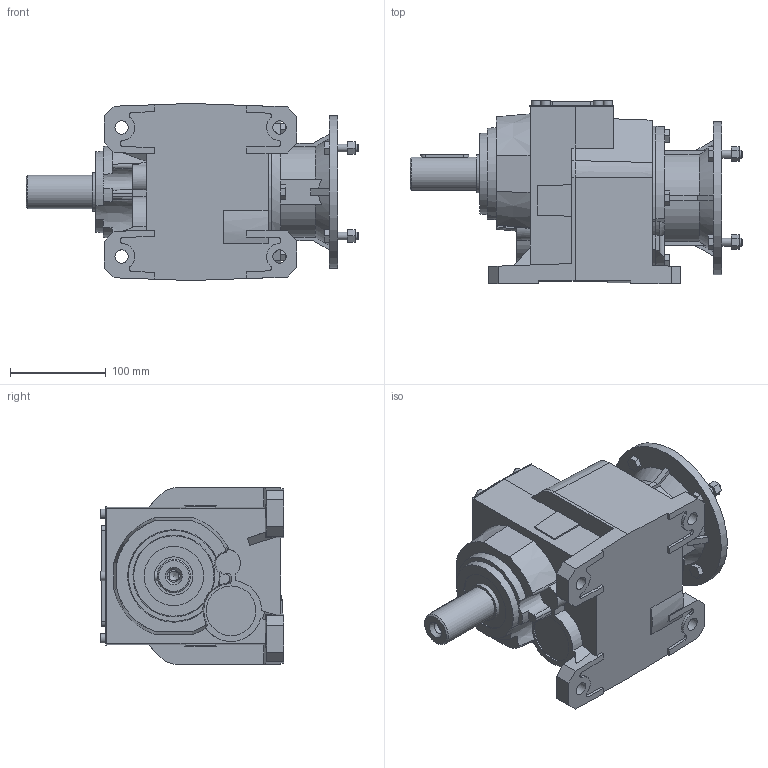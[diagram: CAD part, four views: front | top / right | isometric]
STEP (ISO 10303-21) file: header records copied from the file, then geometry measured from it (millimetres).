
FILE_DESCRIPTION(/* description */ ('STEP AP214'),/* implementation_level */ '2;1');
FILE_NAME(/* name */ 'H053T71 B535x700NO----(-NO----------)',/* time_stamp */ '2024-11-06T08:42:44+01:00',/* author */ ('License CC BY-ND 4.0'),/* organization */ ('CADENAS'),/* preprocessor_version */ 'ST-DEVELOPER v19.3',/* originating_system */ 'PARTsolutions',/* authorisation */ ' ');
FILE_SCHEMA (('AUTOMOTIVE_DESIGN {1 0 10303 214 3 1 1}'));
Length unit declared in the file: millimetre
Products named in the file (5): H053T71 B535x700NO----(-NO----------); 053 T; 053-H-160x14(71 B51); 053-160x14; 053T35-1
Assembly tree (4 placements, depth 2):
  H053T71 B535x700NO----(-NO----------)
    053 T
    053-H-160x14(71 B51)
    053-160x14
    053T35-1
Bounding box: 347 x 192 x 185 mm (x, y, z)
Volume: 5222788 mm3; surface area: 325204.4 mm2
Topology: 4 solids, 4 shells, 434 faces, 1118 edges, 743 vertices
Faces by surface type: plane 324, cylinder 72, cone 35, torus 3
Full cylindrical faces by diameter (mm): 6.047 x3, 8 x8, 10 x6, 10.106 x1, 13 x1, 14 x4, 20 x2, 25 x1, 35 x1, 40 x1, 52 x1, 62 x1, 110 x3, 160 x1
Entity records: 15879 total; most frequent: CARTESIAN_POINT 2462, ORIENTED_EDGE 2126, DIRECTION 2088, EDGE_CURVE 1063, LINE 802, VECTOR 802, VERTEX_POINT 733, AXIS2_PLACEMENT_3D 643
